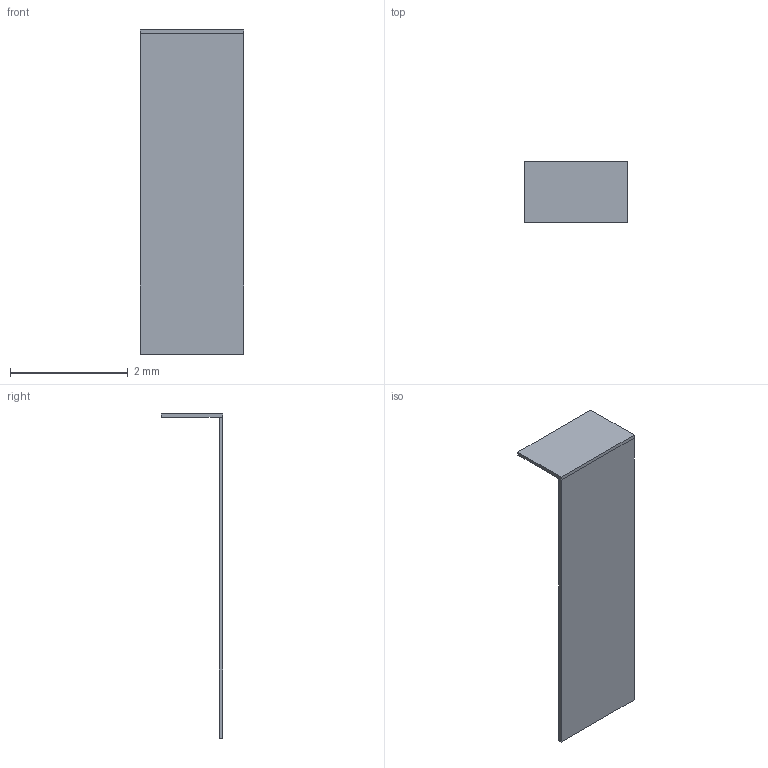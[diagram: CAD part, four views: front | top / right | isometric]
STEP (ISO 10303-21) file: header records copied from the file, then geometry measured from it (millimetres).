
FILE_DESCRIPTION(('Open CASCADE Model'),'2;1');
FILE_NAME('Open CASCADE Shape Model','2026-09-24T17:43:03',('Author'),( 'Open CASCADE'),'Open CASCADE STEP processor 7.8','Open CASCADE 7.8' ,'Unknown');
FILE_SCHEMA(('AUTOMOTIVE_DESIGN { 1 0 10303 214 1 1 1 1 }'));
Length unit declared in the file: millimetre
Products named in the file (1): Open CASCADE STEP translator 7.8 49
Bounding box: 1.75 x 1.04 x 5.5 mm (x, y, z)
Volume: 0.7 mm3; surface area: 23.7 mm2
Topology: 1 solids, 1 shells, 11 faces, 23 edges, 14 vertices
Faces by surface type: plane 11
Entity records: 594 total; most frequent: CARTESIAN_POINT 95, DIRECTION 93, LINE 69, VECTOR 69, ORIENTED_EDGE 46, PCURVE 46, DEFINITIONAL_REPRESENTATION 46, EDGE_CURVE 23
